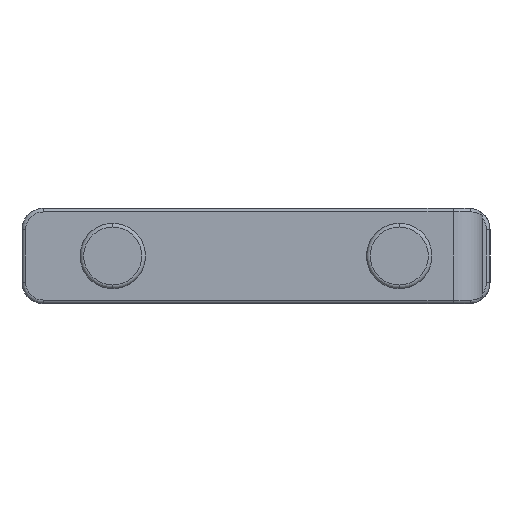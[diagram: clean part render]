
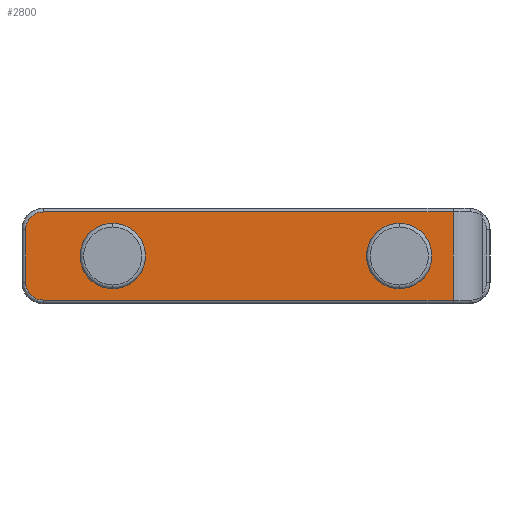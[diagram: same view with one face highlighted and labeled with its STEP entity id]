
A CAD part, left-side view. The second image highlights one B-rep face of the part: STEP entity #2800.
In plain terms, the highlighted planar face has unit normal (-1, 0, 0).
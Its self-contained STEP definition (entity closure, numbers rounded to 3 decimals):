
#356 = FACE_OUTER_BOUND ( 'NONE', #2808, .T. ) ;
#357 = FACE_BOUND ( 'NONE', #2806, .T. ) ;
#361 = CARTESIAN_POINT ( 'NONE',  ( -233.2, -26.82, -6. ) ) ;
#362 = DIRECTION ( 'NONE',  ( 0., 1., 0. ) ) ;
#363 = VECTOR ( 'NONE', #362, 1000. ) ;
#364 = CARTESIAN_POINT ( 'NONE',  ( -233.2, 28.95, 6. ) ) ;
#365 = LINE ( 'NONE', #364, #363 ) ;
#498 = DIRECTION ( 'NONE',  ( 0., 0., -1. ) ) ;
#499 = DIRECTION ( 'NONE',  ( -1., 0., 0. ) ) ;
#500 = AXIS2_PLACEMENT_3D ( 'NONE', #507, #499, #498 ) ;
#501 = CIRCLE ( 'NONE', #500, 4.45 ) ;
#507 = CARTESIAN_POINT ( 'NONE',  ( -233.2, 19.5, 0. ) ) ;
#512 = DIRECTION ( 'NONE',  ( 0., 0., -1. ) ) ;
#513 = DIRECTION ( 'NONE',  ( 1., 0., 0. ) ) ;
#526 = PLANE ( 'NONE',  #528 ) ;
#527 = CARTESIAN_POINT ( 'NONE',  ( -233.2, -27.9, -2.9 ) ) ;
#528 = AXIS2_PLACEMENT_3D ( 'NONE', #527, #513, #512 ) ;
#529 = FACE_BOUND ( 'NONE', #3218, .T. ) ;
#553 = CARTESIAN_POINT ( 'NONE',  ( -233.2, -26.82, 6. ) ) ;
#554 = DIRECTION ( 'NONE',  ( 0., 0., -1. ) ) ;
#555 = VECTOR ( 'NONE', #554, 1000. ) ;
#556 = CARTESIAN_POINT ( 'NONE',  ( -233.2, -26.82, -7.5 ) ) ;
#557 = LINE ( 'NONE', #556, #555 ) ;
#1021 = DIRECTION ( 'NONE',  ( 0., -1., 0. ) ) ;
#1022 = VECTOR ( 'NONE', #1021, 1000. ) ;
#1023 = CARTESIAN_POINT ( 'NONE',  ( -233.2, -26.82, -6. ) ) ;
#1024 = LINE ( 'NONE', #1023, #1022 ) ;
#1030 = DIRECTION ( 'NONE',  ( 0., 0., -1. ) ) ;
#1031 = DIRECTION ( 'NONE',  ( -1., 0., 0. ) ) ;
#1032 = AXIS2_PLACEMENT_3D ( 'NONE', #1039, #1031, #1030 ) ;
#1033 = CIRCLE ( 'NONE', #1032, 4.45 ) ;
#1039 = CARTESIAN_POINT ( 'NONE',  ( -233.2, 19.5, 0. ) ) ;
#1040 = CARTESIAN_POINT ( 'NONE',  ( -233.2, 28.95, 6. ) ) ;
#1291 = CARTESIAN_POINT ( 'NONE',  ( -233.2, -19.5, 4.45 ) ) ;
#1317 = DIRECTION ( 'NONE',  ( 0., 0., -1. ) ) ;
#1318 = DIRECTION ( 'NONE',  ( -1., 0., 0. ) ) ;
#1319 = CARTESIAN_POINT ( 'NONE',  ( -233.2, -19.5, 0. ) ) ;
#1320 = AXIS2_PLACEMENT_3D ( 'NONE', #1319, #1318, #1317 ) ;
#1321 = CIRCLE ( 'NONE', #1320, 4.45 ) ;
#1337 = CARTESIAN_POINT ( 'NONE',  ( -233.2, -19.5, -4.45 ) ) ;
#1354 = CARTESIAN_POINT ( 'NONE',  ( -233.2, 19.5, -4.45 ) ) ;
#1355 = CARTESIAN_POINT ( 'NONE',  ( -233.2, 19.5, 4.45 ) ) ;
#1421 = CARTESIAN_POINT ( 'NONE',  ( -233.2, 28.95, -6. ) ) ;
#1422 = DIRECTION ( 'NONE',  ( 0., 0., -1. ) ) ;
#1423 = DIRECTION ( 'NONE',  ( -1., 0., 0. ) ) ;
#1424 = CARTESIAN_POINT ( 'NONE',  ( -233.2, 28.95, -3.6 ) ) ;
#1425 = AXIS2_PLACEMENT_3D ( 'NONE', #1424, #1423, #1422 ) ;
#1426 = CIRCLE ( 'NONE', #1425, 2.4 ) ;
#1428 = CARTESIAN_POINT ( 'NONE',  ( -233.2, 31.35, -3.6 ) ) ;
#1429 = DIRECTION ( 'NONE',  ( 0., 0., -1. ) ) ;
#1430 = VECTOR ( 'NONE', #1429, 1000. ) ;
#1431 = CARTESIAN_POINT ( 'NONE',  ( -233.2, 31.35, -3.6 ) ) ;
#1432 = LINE ( 'NONE', #1431, #1430 ) ;
#1433 = CARTESIAN_POINT ( 'NONE',  ( -233.2, 31.35, 3.6 ) ) ;
#1445 = DIRECTION ( 'NONE',  ( 0., 0., -1. ) ) ;
#1446 = DIRECTION ( 'NONE',  ( -1., 0., 0. ) ) ;
#1447 = CARTESIAN_POINT ( 'NONE',  ( -233.2, -19.5, 0. ) ) ;
#1448 = AXIS2_PLACEMENT_3D ( 'NONE', #1447, #1446, #1445 ) ;
#1449 = CIRCLE ( 'NONE', #1448, 4.45 ) ;
#1455 = DIRECTION ( 'NONE',  ( 0., 0., -1. ) ) ;
#1456 = DIRECTION ( 'NONE',  ( -1., 0., 0. ) ) ;
#1457 = CARTESIAN_POINT ( 'NONE',  ( -233.2, 28.95, 3.6 ) ) ;
#1458 = AXIS2_PLACEMENT_3D ( 'NONE', #1457, #1456, #1455 ) ;
#1459 = CIRCLE ( 'NONE', #1458, 2.4 ) ;
#2795 = EDGE_CURVE ( 'NONE', #2817, #3036, #365, .T. ) ;
#2796 = VERTEX_POINT ( 'NONE', #361 ) ;
#2797 = ORIENTED_EDGE ( 'NONE', *, *, #2795, .T. ) ;
#2800 = ADVANCED_FACE ( 'NONE', ( #357, #356, #529 ), #526, .F. ) ;
#2805 = ORIENTED_EDGE ( 'NONE', *, *, #2812, .F. ) ;
#2806 = EDGE_LOOP ( 'NONE', ( #2815, #2816 ) ) ;
#2807 = EDGE_CURVE ( 'NONE', #3168, #3167, #501, .T. ) ;
#2808 = EDGE_LOOP ( 'NONE', ( #2805, #2797, #3204, #3194, #3198, #3039 ) ) ;
#2812 = EDGE_CURVE ( 'NONE', #2817, #2796, #557, .T. ) ;
#2815 = ORIENTED_EDGE ( 'NONE', *, *, #2807, .F. ) ;
#2816 = ORIENTED_EDGE ( 'NONE', *, *, #3038, .F. ) ;
#2817 = VERTEX_POINT ( 'NONE', #553 ) ;
#3036 = VERTEX_POINT ( 'NONE', #1040 ) ;
#3038 = EDGE_CURVE ( 'NONE', #3167, #3168, #1033, .T. ) ;
#3039 = ORIENTED_EDGE ( 'NONE', *, *, #3043, .T. ) ;
#3043 = EDGE_CURVE ( 'NONE', #3200, #2796, #1024, .T. ) ;
#3136 = VERTEX_POINT ( 'NONE', #1291 ) ;
#3145 = VERTEX_POINT ( 'NONE', #1337 ) ;
#3152 = EDGE_CURVE ( 'NONE', #3136, #3145, #1321, .T. ) ;
#3167 = VERTEX_POINT ( 'NONE', #1355 ) ;
#3168 = VERTEX_POINT ( 'NONE', #1354 ) ;
#3193 = VERTEX_POINT ( 'NONE', #1433 ) ;
#3194 = ORIENTED_EDGE ( 'NONE', *, *, #3195, .T. ) ;
#3195 = EDGE_CURVE ( 'NONE', #3193, #3196, #1432, .T. ) ;
#3196 = VERTEX_POINT ( 'NONE', #1428 ) ;
#3198 = ORIENTED_EDGE ( 'NONE', *, *, #3199, .T. ) ;
#3199 = EDGE_CURVE ( 'NONE', #3196, #3200, #1426, .T. ) ;
#3200 = VERTEX_POINT ( 'NONE', #1421 ) ;
#3204 = ORIENTED_EDGE ( 'NONE', *, *, #3208, .T. ) ;
#3208 = EDGE_CURVE ( 'NONE', #3036, #3193, #1459, .T. ) ;
#3218 = EDGE_LOOP ( 'NONE', ( #3219, #3222 ) ) ;
#3219 = ORIENTED_EDGE ( 'NONE', *, *, #3221, .F. ) ;
#3221 = EDGE_CURVE ( 'NONE', #3145, #3136, #1449, .T. ) ;
#3222 = ORIENTED_EDGE ( 'NONE', *, *, #3152, .F. ) ;
